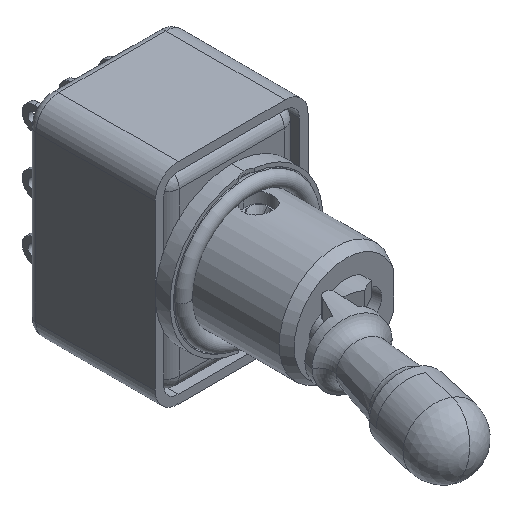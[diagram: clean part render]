
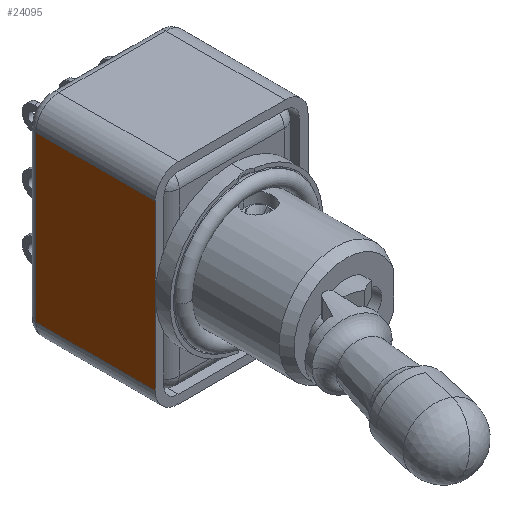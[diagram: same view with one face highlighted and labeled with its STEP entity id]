
A CAD part, isometric view. The second image highlights one B-rep face of the part: STEP entity #24095.
In plain terms, the highlighted planar face has unit normal (-1, 0, 0).
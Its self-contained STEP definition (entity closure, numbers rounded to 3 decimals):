
#123=DIRECTION('',(0.,-1.,0.));
#124=VECTOR('',#123,12.5);
#125=CARTESIAN_POINT('',(-8.,6.3,-8.6));
#126=LINE('',#125,#124);
#188=DIRECTION('',(0.,0.,-1.));
#189=VECTOR('',#188,8.6);
#190=CARTESIAN_POINT('',(-8.,-6.2,0.));
#191=LINE('',#190,#189);
#6086=DIRECTION('',(0.,0.,-1.));
#6087=VECTOR('',#6086,8.6);
#6088=CARTESIAN_POINT('',(-8.,-6.2,8.6));
#6089=LINE('',#6088,#6087);
#8562=DIRECTION('',(0.,0.,1.));
#8563=VECTOR('',#8562,17.2);
#8564=CARTESIAN_POINT('',(-8.,6.3,-8.6));
#8565=LINE('',#8564,#8563);
#8566=DIRECTION('',(0.,-1.,0.));
#8567=VECTOR('',#8566,12.5);
#8568=CARTESIAN_POINT('',(-8.,6.3,8.6));
#8569=LINE('',#8568,#8567);
#12048=CARTESIAN_POINT('',(-8.,-6.2,-8.6));
#12050=VERTEX_POINT('',#12048);
#12062=CARTESIAN_POINT('',(-8.,-6.2,8.6));
#12063=VERTEX_POINT('',#12062);
#12110=CARTESIAN_POINT('',(-8.,6.3,-8.6));
#12111=VERTEX_POINT('',#12110);
#12114=CARTESIAN_POINT('',(-8.,6.3,8.6));
#12115=VERTEX_POINT('',#12114);
#12624=CARTESIAN_POINT('',(-8.,-6.2,0.));
#12626=VERTEX_POINT('',#12624);
#24082=CARTESIAN_POINT('',(-8.,7.2,8.6));
#24083=DIRECTION('',(-1.,0.,0.));
#24084=DIRECTION('',(0.,0.,-1.));
#24085=AXIS2_PLACEMENT_3D('',#24082,#24083,#24084);
#24086=PLANE('',#24085);
#24087=ORIENTED_EDGE('',*,*,#20530,.T.);
#24088=ORIENTED_EDGE('',*,*,#13009,.T.);
#24089=ORIENTED_EDGE('',*,*,#12892,.F.);
#24090=ORIENTED_EDGE('',*,*,#12921,.T.);
#24092=ORIENTED_EDGE('',*,*,#24091,.T.);
#24093=EDGE_LOOP('',(#24087,#24088,#24089,#24090,#24092));
#24094=FACE_OUTER_BOUND('',#24093,.F.);
#12892=EDGE_CURVE('',#12111,#12050,#126,.T.);
#12921=EDGE_CURVE('',#12111,#12115,#8565,.T.);
#13009=EDGE_CURVE('',#12626,#12050,#191,.T.);
#20530=EDGE_CURVE('',#12063,#12626,#6089,.T.);
#24091=EDGE_CURVE('',#12115,#12063,#8569,.T.);
#24095=ADVANCED_FACE('',(#24094),#24086,.T.);
